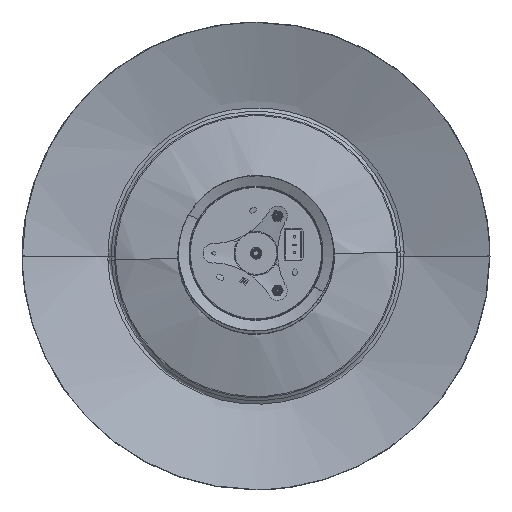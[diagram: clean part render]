
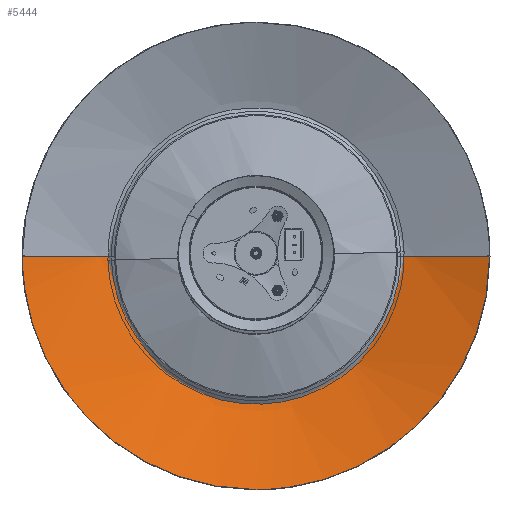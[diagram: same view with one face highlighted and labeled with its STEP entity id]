
A CAD part, top view. The second image highlights one B-rep face of the part: STEP entity #5444.
In plain terms, the highlighted free-form (B-spline) face has degree [2, 2] with [5, 9] control points.
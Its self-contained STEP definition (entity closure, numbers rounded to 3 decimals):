
#5444=ADVANCED_FACE('',(#11783),#104350,.T.);
#11783=FACE_OUTER_BOUND('',#18582,.T.);
#18582=EDGE_LOOP('',(#45263,#45264,#45265,#45266));
#45263=ORIENTED_EDGE('',*,*,#66622,.T.);
#45264=ORIENTED_EDGE('',*,*,#66626,.F.);
#45265=ORIENTED_EDGE('',*,*,#66633,.F.);
#45266=ORIENTED_EDGE('',*,*,#66623,.T.);
#66622=EDGE_CURVE('',#96129,#96130,#86615,.T.);
#66623=EDGE_CURVE('',#96131,#96129,#86616,.T.);
#66626=EDGE_CURVE('',#96137,#96130,#86619,.T.);
#66633=EDGE_CURVE('',#96131,#96137,#86624,.T.);
#86615=(
BOUNDED_CURVE()
B_SPLINE_CURVE(2,(#222619,#222620,#222621),.UNSPECIFIED.,.F.,.F.)
B_SPLINE_CURVE_WITH_KNOTS((3,3),(-308.258,0.),.UNSPECIFIED.)
CURVE()
GEOMETRIC_REPRESENTATION_ITEM()
RATIONAL_B_SPLINE_CURVE((1.,0.979,1.))
REPRESENTATION_ITEM('')
);
#86616=(
BOUNDED_CURVE()
B_SPLINE_CURVE(2,(#222622,#222623,#222624),.UNSPECIFIED.,.F.,.F.)
B_SPLINE_CURVE_WITH_KNOTS((3,3),(-308.258,0.),.UNSPECIFIED.)
CURVE()
GEOMETRIC_REPRESENTATION_ITEM()
RATIONAL_B_SPLINE_CURVE((1.,0.979,1.))
REPRESENTATION_ITEM('')
);
#86619=(
BOUNDED_CURVE()
B_SPLINE_CURVE(2,(#222631,#222632,#222633),.UNSPECIFIED.,.F.,.F.)
B_SPLINE_CURVE_WITH_KNOTS((3,3),(0.,470.453),.UNSPECIFIED.)
CURVE()
GEOMETRIC_REPRESENTATION_ITEM()
RATIONAL_B_SPLINE_CURVE((1.,0.707,1.))
REPRESENTATION_ITEM('')
);
#86624=(
BOUNDED_CURVE()
B_SPLINE_CURVE(2,(#222650,#222651,#222652),.UNSPECIFIED.,.F.,.F.)
B_SPLINE_CURVE_WITH_KNOTS((3,3),(0.,470.453),.UNSPECIFIED.)
CURVE()
GEOMETRIC_REPRESENTATION_ITEM()
RATIONAL_B_SPLINE_CURVE((1.,0.707,1.))
REPRESENTATION_ITEM('')
);
#96129=VERTEX_POINT('',#222609);
#96130=VERTEX_POINT('',#222610);
#96131=VERTEX_POINT('',#222611);
#96137=VERTEX_POINT('',#222617);
#104350=(
BOUNDED_SURFACE()
B_SPLINE_SURFACE(2,2,((#222564,#222565,#222566,#222567,#222568,#222569,
#222570,#222571,#222572),(#222573,#222574,#222575,#222576,#222577,#222578,
#222579,#222580,#222581),(#222582,#222583,#222584,#222585,#222586,#222587,
#222588,#222589,#222590),(#222591,#222592,#222593,#222594,#222595,#222596,
#222597,#222598,#222599),(#222600,#222601,#222602,#222603,#222604,#222605,
#222606,#222607,#222608)),.UNSPECIFIED.,.F.,.F.,.F.)
B_SPLINE_SURFACE_WITH_KNOTS((3,2,3),(3,2,2,2,3),(0.,1167.741,2335.481),
(0.,1167.741,2335.481,3503.222,4670.962),
 .UNSPECIFIED.)
GEOMETRIC_REPRESENTATION_ITEM()
RATIONAL_B_SPLINE_SURFACE(((1.,0.707,1.,0.707,1.,
0.707,1.,0.707,1.),(0.707,0.5,0.707,
0.5,0.707,0.5,0.707,0.5,0.707),(1.,
0.707,1.,0.707,1.,0.707,1.,0.707,
1.),(0.707,0.5,0.707,0.5,0.707,0.5,
0.707,0.5,0.707),(1.,0.707,1.,0.707,
1.,0.707,1.,0.707,1.)))
REPRESENTATION_ITEM('')
SURFACE()
);
#222564=CARTESIAN_POINT('',(0.,742.728,744.907));
#222565=CARTESIAN_POINT('',(0.,742.728,744.907));
#222566=CARTESIAN_POINT('',(0.,742.728,744.907));
#222567=CARTESIAN_POINT('',(0.,742.728,744.907));
#222568=CARTESIAN_POINT('',(0.,742.728,744.907));
#222569=CARTESIAN_POINT('',(0.,742.728,744.907));
#222570=CARTESIAN_POINT('',(0.,742.728,744.907));
#222571=CARTESIAN_POINT('',(0.,742.728,744.907));
#222572=CARTESIAN_POINT('',(0.,742.728,744.907));
#222573=CARTESIAN_POINT('',(-743.407,742.728,744.907));
#222574=CARTESIAN_POINT('',(-743.407,742.728,1.5));
#222575=CARTESIAN_POINT('',(0.,742.728,1.5));
#222576=CARTESIAN_POINT('',(743.407,742.728,1.5));
#222577=CARTESIAN_POINT('',(743.407,742.728,744.907));
#222578=CARTESIAN_POINT('',(743.407,742.728,1488.313));
#222579=CARTESIAN_POINT('',(0.,742.728,1488.313));
#222580=CARTESIAN_POINT('',(-743.407,742.728,1488.313));
#222581=CARTESIAN_POINT('',(-743.407,742.728,744.907));
#222582=CARTESIAN_POINT('',(-743.407,-0.679,744.907));
#222583=CARTESIAN_POINT('',(-743.407,-0.679,1.5));
#222584=CARTESIAN_POINT('',(0.,-0.679,1.5));
#222585=CARTESIAN_POINT('',(743.407,-0.679,1.5));
#222586=CARTESIAN_POINT('',(743.407,-0.679,744.907));
#222587=CARTESIAN_POINT('',(743.407,-0.679,1488.313));
#222588=CARTESIAN_POINT('',(0.,-0.679,1488.313));
#222589=CARTESIAN_POINT('',(-743.407,-0.679,1488.313));
#222590=CARTESIAN_POINT('',(-743.407,-0.679,744.907));
#222591=CARTESIAN_POINT('',(-743.407,-744.086,744.907));
#222592=CARTESIAN_POINT('',(-743.407,-744.086,1.5));
#222593=CARTESIAN_POINT('',(0.,-744.086,1.5));
#222594=CARTESIAN_POINT('',(743.407,-744.086,1.5));
#222595=CARTESIAN_POINT('',(743.407,-744.086,744.907));
#222596=CARTESIAN_POINT('',(743.407,-744.086,1488.313));
#222597=CARTESIAN_POINT('',(0.,-744.086,1488.313));
#222598=CARTESIAN_POINT('',(-743.407,-744.086,1488.313));
#222599=CARTESIAN_POINT('',(-743.407,-744.086,744.907));
#222600=CARTESIAN_POINT('',(0.,-744.086,744.907));
#222601=CARTESIAN_POINT('',(0.,-744.086,744.907));
#222602=CARTESIAN_POINT('',(0.,-744.086,744.907));
#222603=CARTESIAN_POINT('',(0.,-744.086,744.907));
#222604=CARTESIAN_POINT('',(0.,-744.086,744.907));
#222605=CARTESIAN_POINT('',(0.,-744.086,744.907));
#222606=CARTESIAN_POINT('',(0.,-744.086,744.907));
#222607=CARTESIAN_POINT('',(0.,-744.086,744.907));
#222608=CARTESIAN_POINT('',(0.,-744.086,744.907));
#222609=CARTESIAN_POINT('',(0.,-0.679,1.5));
#222610=CARTESIAN_POINT('',(-299.5,-0.679,64.5));
#222611=CARTESIAN_POINT('',(299.5,-0.679,64.5));
#222617=CARTESIAN_POINT('',(0.,-300.179,64.5));
#222619=CARTESIAN_POINT('',(0.,-0.679,1.5));
#222620=CARTESIAN_POINT('',(-156.376,-0.679,1.5));
#222621=CARTESIAN_POINT('',(-299.5,-0.679,64.5));
#222622=CARTESIAN_POINT('',(299.5,-0.679,64.5));
#222623=CARTESIAN_POINT('',(156.376,-0.679,1.5));
#222624=CARTESIAN_POINT('',(0.,-0.679,1.5));
#222631=CARTESIAN_POINT('',(0.,-300.179,64.5));
#222632=CARTESIAN_POINT('',(-299.5,-300.179,64.5));
#222633=CARTESIAN_POINT('',(-299.5,-0.679,64.5));
#222650=CARTESIAN_POINT('',(299.5,-0.679,64.5));
#222651=CARTESIAN_POINT('',(299.5,-300.179,64.5));
#222652=CARTESIAN_POINT('',(0.,-300.179,64.5));
